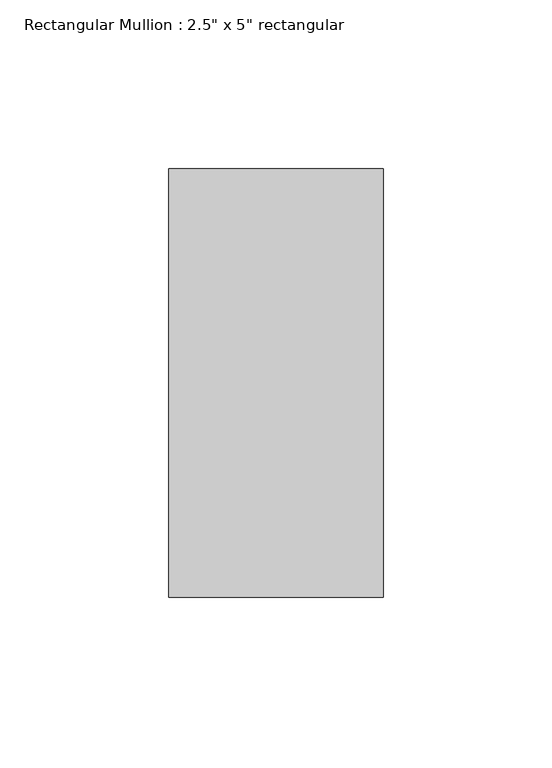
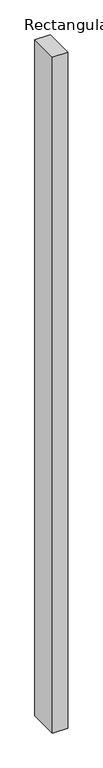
"""IFC4 building model written with IfcOpenShell, lengths in millimetres: member geometry."""

from ifc_helpers import new_model, si_unit, frame, origin, place, context, project, spatial, polyline, outline, extrude, source, transform, mapped, element, save


def member_db480205(model_context):
    return source(origin(), model_context, "Body", "SweptSolid", [
        extrude(outline(polyline([(0.0, 63.5), (0.0, -63.5), (-63.5, -63.5), (-63.5, 63.5), (0.0, 63.5)])), frame((0.0, 0.0, -2984.5), z_axis=(0.0, 0.0, 1.0), x_axis=(1.0, 0.0, 0.0)), (0.0, 0.0, 1.0), 2984.5),
    ])


if __name__ == "__main__":
    model = new_model("IFC4")
    model_context = context("Model", 3, world=origin())
    ifc_project = project(units=[si_unit("LENGTHUNIT", "METRE", prefix="MILLI")], contexts=[model_context])
    site = spatial("IfcSite", under=ifc_project)
    building = spatial("IfcBuilding", under=site)
    placement = place(None, origin())
    member_shape = member_db480205(model_context)
    element("IfcMember", 1, ObjectType="Rectangular Mullion : 2.5\" x 5\" rectangular", at=placement, inside=building, context=model_context, shape_type="MappedRepresentation", body=[
        mapped(member_shape, transform((0.0, 0.0, 0.0), x_axis=(1.0, 0.0, 0.0), y_axis=(0.0, 1.0, 0.0), z_axis=(0.0, 0.0, 1.0))),
    ])
    save(model, "model.ifc")
